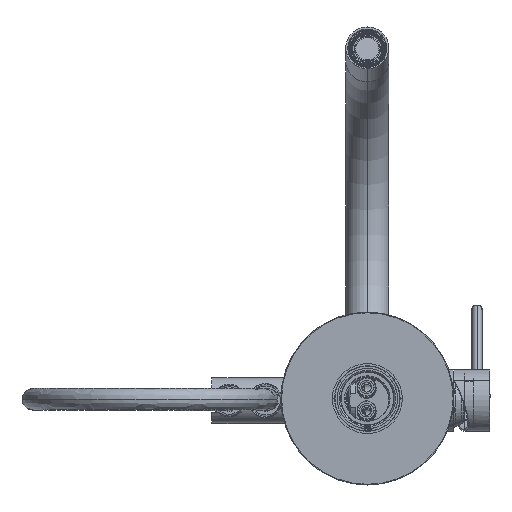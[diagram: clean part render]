
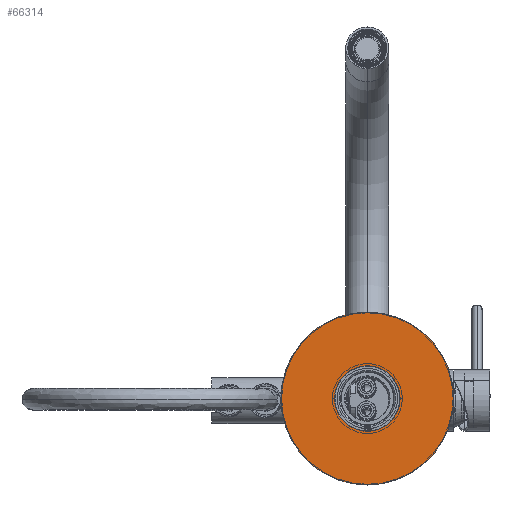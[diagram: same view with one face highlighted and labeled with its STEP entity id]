
A CAD part, top view. The second image highlights one B-rep face of the part: STEP entity #66314.
In plain terms, the highlighted planar face has unit normal (0, 0, 1).
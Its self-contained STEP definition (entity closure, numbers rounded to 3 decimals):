
#66015=CARTESIAN_POINT('',(0.,0.,568.));
#66016=DIRECTION('',(0.,0.,-1.));
#66017=DIRECTION('',(-1.,0.,0.));
#66018=AXIS2_PLACEMENT_3D('',#66015,#66016,#66017);
#66020=CARTESIAN_POINT('',(0.,0.,568.));
#66021=DIRECTION('',(0.,0.,-1.));
#66022=DIRECTION('',(1.,0.,0.));
#66023=AXIS2_PLACEMENT_3D('',#66020,#66021,#66022);
#66025=CARTESIAN_POINT('',(0.,0.,568.));
#66026=DIRECTION('',(0.,0.,1.));
#66027=DIRECTION('',(-1.,0.,0.));
#66028=AXIS2_PLACEMENT_3D('',#66025,#66026,#66027);
#66030=CARTESIAN_POINT('',(0.,0.,568.));
#66031=DIRECTION('',(0.,0.,1.));
#66032=DIRECTION('',(1.,0.,0.));
#66033=AXIS2_PLACEMENT_3D('',#66030,#66031,#66032);
#66081=CARTESIAN_POINT('',(-22.75,0.,568.));
#66082=CARTESIAN_POINT('',(22.75,0.,568.));
#66083=VERTEX_POINT('',#66081);
#66084=VERTEX_POINT('',#66082);
#66085=CARTESIAN_POINT('',(-60.,0.,568.));
#66086=CARTESIAN_POINT('',(60.,0.,568.));
#66087=VERTEX_POINT('',#66085);
#66088=VERTEX_POINT('',#66086);
#66299=CARTESIAN_POINT('',(0.,0.,568.));
#66300=DIRECTION('',(0.,0.,-1.));
#66301=DIRECTION('',(-1.,0.,0.));
#66302=AXIS2_PLACEMENT_3D('',#66299,#66300,#66301);
#66303=PLANE('',#66302);
#66304=ORIENTED_EDGE('',*,*,#66279,.T.);
#66305=ORIENTED_EDGE('',*,*,#66293,.T.);
#66306=EDGE_LOOP('',(#66304,#66305));
#66307=FACE_OUTER_BOUND('',#66306,.F.);
#66309=ORIENTED_EDGE('',*,*,#66308,.T.);
#66311=ORIENTED_EDGE('',*,*,#66310,.T.);
#66312=EDGE_LOOP('',(#66309,#66311));
#66313=FACE_BOUND('',#66312,.F.);
#66314=ADVANCED_FACE('',(#66307,#66313),#66303,.F.);
#66019=CIRCLE('',#66018,60.);
#66024=CIRCLE('',#66023,60.);
#66029=CIRCLE('',#66028,22.75);
#66034=CIRCLE('',#66033,22.75);
#66279=EDGE_CURVE('',#66087,#66088,#66019,.T.);
#66293=EDGE_CURVE('',#66088,#66087,#66024,.T.);
#66308=EDGE_CURVE('',#66083,#66084,#66029,.T.);
#66310=EDGE_CURVE('',#66084,#66083,#66034,.T.);
